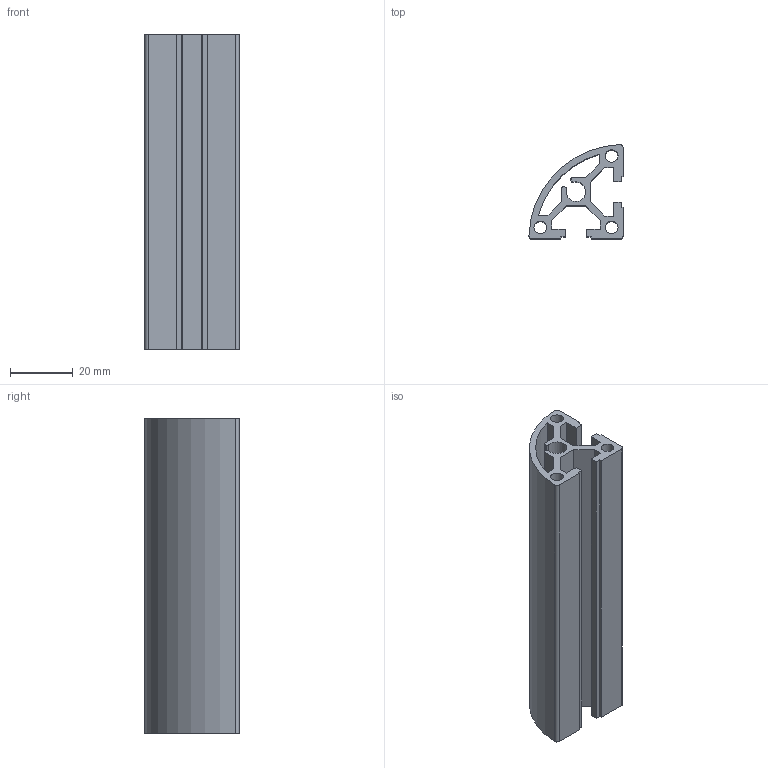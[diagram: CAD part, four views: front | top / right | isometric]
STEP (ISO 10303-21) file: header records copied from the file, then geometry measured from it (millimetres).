
FILE_DESCRIPTION(/* description */ (''),/* implementation_level */ '2;1');
FILE_NAME(/* name */ '\\AM-PUBLIC\Share\02.新型錄-2021\AM6系列\6系列-3D\01.6系列-AM-鋁擠\AM6-30R_100L.stp',/* time_stamp */ '2021-12-20T10:16:39+08:00',/* author */ ('user'),/* organization */ (''),/* preprocessor_version */ 'ST-DEVELOPER v18.1',/* originating_system */ 'Autodesk Inventor 2021',/* authorisation */ '');
FILE_SCHEMA (('AUTOMOTIVE_DESIGN { 1 0 10303 214 3 1 1 }'));
Length unit declared in the file: millimetre
Products named in the file (1): 零件109
Bounding box: 29.98 x 29.98 x 100 mm (x, y, z)
Volume: 30250.6 mm3; surface area: 29249.5 mm2
Topology: 1 solids, 1 shells, 53 faces, 153 edges, 102 vertices
Faces by surface type: plane 40, cylinder 13
Full cylindrical faces by diameter (mm): 4 x3
Entity records: 1790 total; most frequent: CARTESIAN_POINT 309, ORIENTED_EDGE 306, DIRECTION 287, EDGE_CURVE 153, LINE 127, VECTOR 127, VERTEX_POINT 102, AXIS2_PLACEMENT_3D 80
